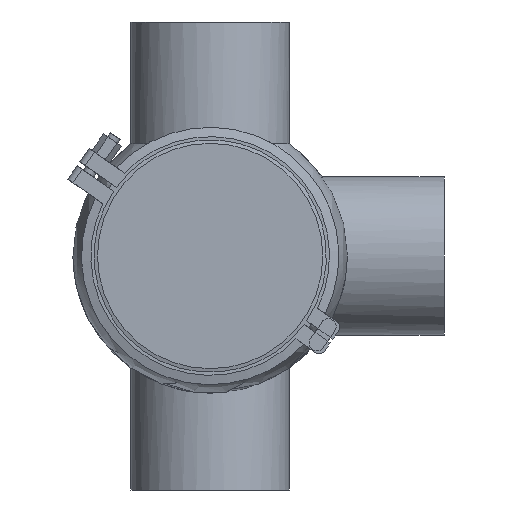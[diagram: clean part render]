
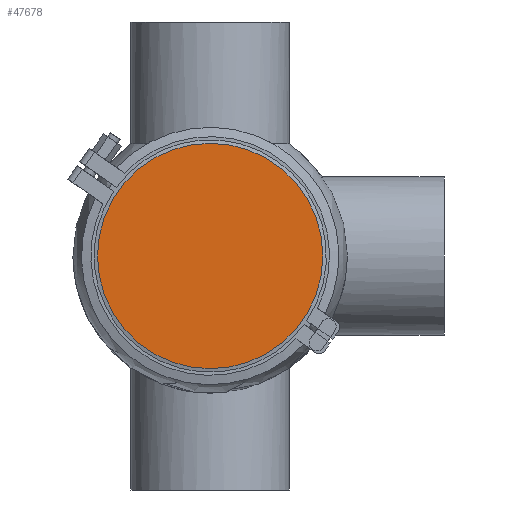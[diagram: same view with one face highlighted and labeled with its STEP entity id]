
A CAD part, front view. The second image highlights one B-rep face of the part: STEP entity #47678.
In plain terms, the highlighted planar face has unit normal (0, -1, 0).
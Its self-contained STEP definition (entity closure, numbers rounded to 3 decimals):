
#4012 = PLANE ( 'NONE',  #11758 ) ;
#8293 = CARTESIAN_POINT ( 'NONE',  ( 0., 0., 72.25 ) ) ;
#8369 = DIRECTION ( 'NONE',  ( 0., 0., 1. ) ) ;
#9255 = FACE_OUTER_BOUND ( 'NONE', #49136, .T. ) ;
#11758 = AXIS2_PLACEMENT_3D ( 'NONE', #60836, #41313, #52495 ) ;
#22598 = VERTEX_POINT ( 'NONE', #8293 ) ;
#31734 = ORIENTED_EDGE ( 'NONE', *, *, #38332, .F. ) ;
#31987 = DIRECTION ( 'NONE',  ( 0., 1., 0. ) ) ;
#34142 = CIRCLE ( 'NONE', #50122, 72.25 ) ;
#38332 = EDGE_CURVE ( 'NONE', #22598, #22598, #34142, .T. ) ;
#41313 = DIRECTION ( 'NONE',  ( 0., -1., 0. ) ) ;
#47678 = ADVANCED_FACE ( 'NONE', ( #9255 ), #4012, .T. ) ;
#49136 = EDGE_LOOP ( 'NONE', ( #31734 ) ) ;
#50122 = AXIS2_PLACEMENT_3D ( 'NONE', #59635, #31987, #8369 ) ;
#52495 = DIRECTION ( 'NONE',  ( 0., 0., -1. ) ) ;
#59635 = CARTESIAN_POINT ( 'NONE',  ( 0., 0., 0. ) ) ;
#60836 = CARTESIAN_POINT ( 'NONE',  ( -72.25, 0., 0. ) ) ;
